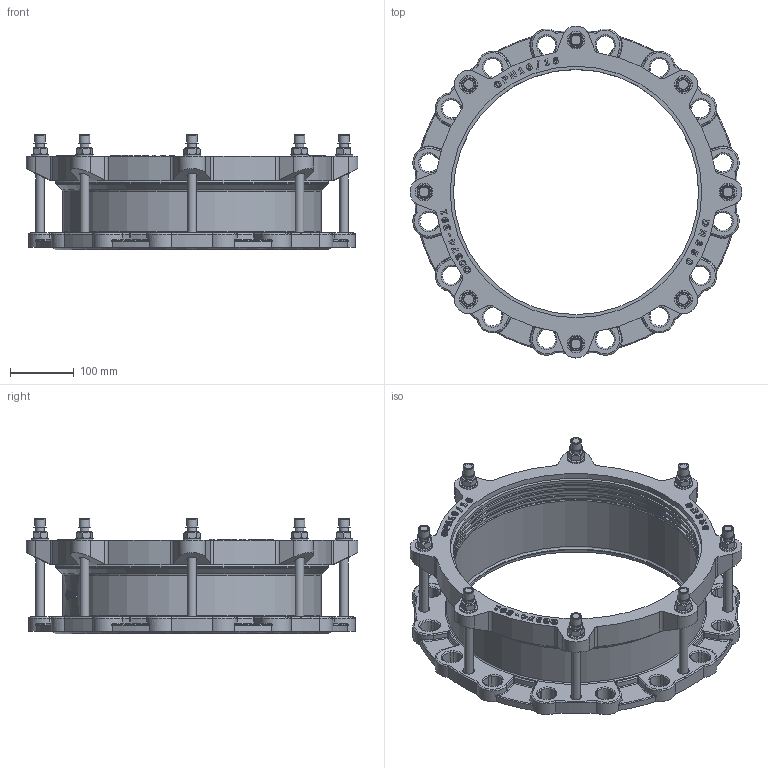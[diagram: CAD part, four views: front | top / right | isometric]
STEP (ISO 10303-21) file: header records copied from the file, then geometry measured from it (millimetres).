
FILE_DESCRIPTION(('STEP AP203'), '1');
FILE_NAME('Ôëàíöåâûé àäàïòåð', '', ('UNSPECIFIED'), ('UNSPECIFIED'), 'C3D Converter', 'C3D Toolkit', '');
FILE_SCHEMA(('CONFIG_CONTROL_DESIGN'));
Length unit declared in the file: millimetre
Assembly tree (35 placements, depth 2):
  (unnamed)
    (unnamed)
    (unnamed)  x8
    (unnamed)  x8
    (unnamed)  x8
    (unnamed)  x8
    (unnamed)
    (unnamed)
Bounding box: 520 x 520 x 181.4 mm (x, y, z)
Volume: 4207801.1 mm3; surface area: 973915 mm2
Topology: 35 solids, 35 shells, 1642 faces, 4111 edges, 2496 vertices
Faces by surface type: plane 513, cylinder 426, extrusion 384, torus 147, bspline 64, cone 60, sphere 48
Full cylindrical faces by diameter (mm): 13.478 x1, 14 x24, 15 x8, 16 x16, 16.8 x8, 19.6 x8, 28 x8, 384 x5, 389 x3, 394 x2, 400 x1, 406 x2, 427 x1, 430 x2
Entity records: 58593 total; most frequent: CARTESIAN_POINT 21765, ORIENTED_EDGE 6748, DIRECTION 5626, EDGE_CURVE 3374, VERTEX_POINT 2130, AXIS2_PLACEMENT_3D 1899, VECTOR 1828, EDGE_LOOP 1568
